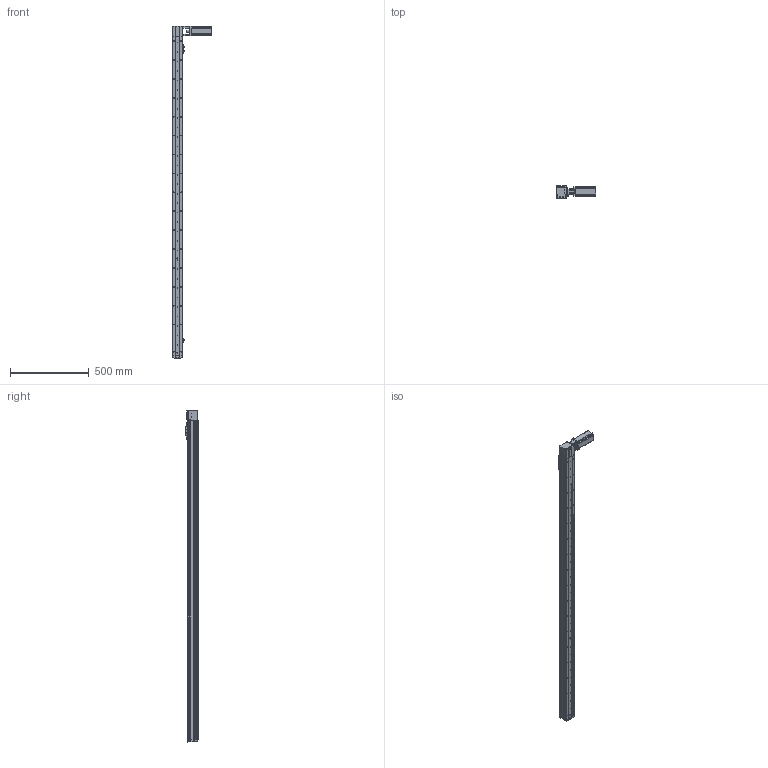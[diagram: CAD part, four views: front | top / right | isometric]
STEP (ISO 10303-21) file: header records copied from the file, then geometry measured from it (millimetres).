
FILE_DESCRIPTION (( 'STEP AP214' ), '1' );
FILE_NAME ('KSD68BS-S1850-MRT-CR.STEP', '2019-11-07T07:03:01', ( '微软用户' ), ( '微软中国' ), 'SwSTEP 2.0', 'SolidWorks 2014', '' );
FILE_SCHEMA (( 'AUTOMOTIVE_DESIGN' ));
Length unit declared in the file: millimetre
Products named in the file (13): 感应片68宽全封闭; U倰嫖萇EEㄜSX672; 台达ECMA－C20604AS伺服电机（400W); KSD68BS 1850行程底板全封闭; KSD68BS-S1850-MRT-CR; 100遵鎮湛假蚾啣1; KSD68BS 1850行程盖板全封闭; 68遵裔啣揤啣1; 68宽单导轨全封闭丝杆传动安装板1防护罩; KSD68BS 1850行程侧板全封闭; 68宽单导轨全封闭同步带端板; 68单导轨全封闭同步带电机座左; 68单导轨全封闭同步带安装板
Assembly tree (16 placements, depth 2):
  KSD68BS-S1850-MRT-CR
    KSD68BS 1850行程底板全封闭
    台达ECMA－C20604AS伺服电机（400W)
    U倰嫖萇EEㄜSX672  x3
    感应片68宽全封闭
    68单导轨全封闭同步带安装板
    68单导轨全封闭同步带电机座左
    68宽单导轨全封闭同步带端板
    KSD68BS 1850行程侧板全封闭  x2
    68宽单导轨全封闭丝杆传动安装板1防护罩
    68遵裔啣揤啣1  x2
    KSD68BS 1850行程盖板全封闭
    100遵鎮湛假蚾啣1
Bounding box: 252.7 x 77 x 2108.1 mm (x, y, z)
Volume: 3630502.4 mm3; surface area: 1473723.9 mm2
Topology: 17 solids, 17 shells, 1579 faces, 4572 edges, 2906 vertices
Faces by surface type: cylinder 781, plane 602, cone 196
Entity records: 52106 total; most frequent: CARTESIAN_POINT 9111, DIRECTION 7667, ORIENTED_EDGE 7340, EDGE_CURVE 3670, AXIS2_PLACEMENT_3D 2810, VERTEX_POINT 2404, LINE 2047, VECTOR 2047
